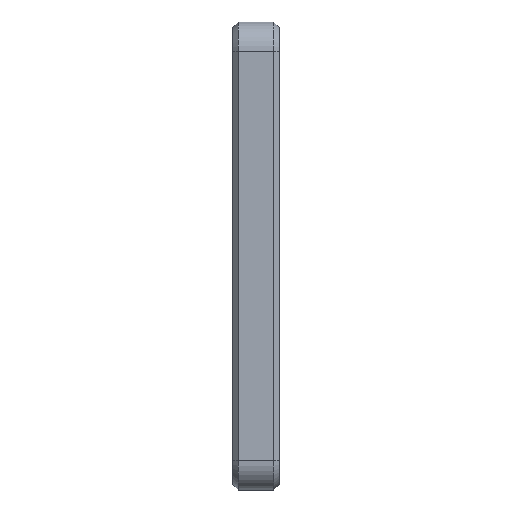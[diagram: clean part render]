
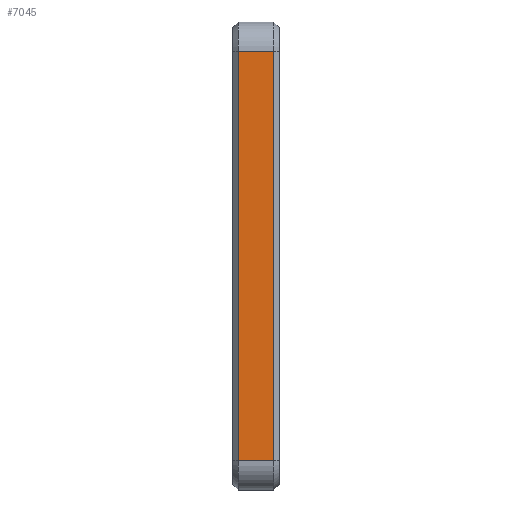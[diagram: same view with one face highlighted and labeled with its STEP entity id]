
A CAD part, left-side view. The second image highlights one B-rep face of the part: STEP entity #7045.
In plain terms, the highlighted planar face has unit normal (-1, 0, 0).
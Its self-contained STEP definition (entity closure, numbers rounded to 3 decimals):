
#34 = DIRECTION ( 'NONE',  ( 1., 0., 0. ) ) ;
#347 = CARTESIAN_POINT ( 'NONE',  ( -40., 1., 35. ) ) ;
#452 = CARTESIAN_POINT ( 'NONE',  ( -40., 8., 35. ) ) ;
#503 = EDGE_CURVE ( 'NONE', #2717, #6305, #1052, .T. ) ;
#694 = EDGE_LOOP ( 'NONE', ( #5989, #4624, #5110, #6622 ) ) ;
#997 = CARTESIAN_POINT ( 'NONE',  ( -40., 1., -35. ) ) ;
#1052 = LINE ( 'NONE', #2911, #6309 ) ;
#2224 = DIRECTION ( 'NONE',  ( 0., -1., 0. ) ) ;
#2399 = AXIS2_PLACEMENT_3D ( 'NONE', #4714, #34, #4121 ) ;
#2451 = PLANE ( 'NONE',  #2399 ) ;
#2693 = DIRECTION ( 'NONE',  ( 0., 0., -1. ) ) ;
#2717 = VERTEX_POINT ( 'NONE', #997 ) ;
#2775 = CARTESIAN_POINT ( 'NONE',  ( -40., 7., -35. ) ) ;
#2826 = CARTESIAN_POINT ( 'NONE',  ( -40., 8., -35. ) ) ;
#2911 = CARTESIAN_POINT ( 'NONE',  ( -40., 1., -40. ) ) ;
#4121 = DIRECTION ( 'NONE',  ( 0., 0., -1. ) ) ;
#4162 = VECTOR ( 'NONE', #2693, 1000. ) ;
#4367 = EDGE_CURVE ( 'NONE', #6087, #5276, #4917, .T. ) ;
#4416 = VECTOR ( 'NONE', #2224, 1000. ) ;
#4624 = ORIENTED_EDGE ( 'NONE', *, *, #503, .T. ) ;
#4714 = CARTESIAN_POINT ( 'NONE',  ( -40., 8., -40. ) ) ;
#4917 = LINE ( 'NONE', #2775, #4162 ) ;
#5110 = ORIENTED_EDGE ( 'NONE', *, *, #6448, .T. ) ;
#5276 = VERTEX_POINT ( 'NONE', #6545 ) ;
#5777 = VECTOR ( 'NONE', #6656, 1000. ) ;
#5989 = ORIENTED_EDGE ( 'NONE', *, *, #6968, .T. ) ;
#6087 = VERTEX_POINT ( 'NONE', #7254 ) ;
#6305 = VERTEX_POINT ( 'NONE', #347 ) ;
#6309 = VECTOR ( 'NONE', #7285, 1000. ) ;
#6448 = EDGE_CURVE ( 'NONE', #6305, #6087, #6510, .T. ) ;
#6510 = LINE ( 'NONE', #452, #5777 ) ;
#6545 = CARTESIAN_POINT ( 'NONE',  ( -40., 7., -35. ) ) ;
#6622 = ORIENTED_EDGE ( 'NONE', *, *, #4367, .T. ) ;
#6656 = DIRECTION ( 'NONE',  ( 0., 1., 0. ) ) ;
#6792 = LINE ( 'NONE', #2826, #4416 ) ;
#6862 = FACE_OUTER_BOUND ( 'NONE', #694, .T. ) ;
#6968 = EDGE_CURVE ( 'NONE', #5276, #2717, #6792, .T. ) ;
#7045 = ADVANCED_FACE ( 'NONE', ( #6862 ), #2451, .F. ) ;
#7254 = CARTESIAN_POINT ( 'NONE',  ( -40., 7., 35. ) ) ;
#7285 = DIRECTION ( 'NONE',  ( 0., 0., 1. ) ) ;
